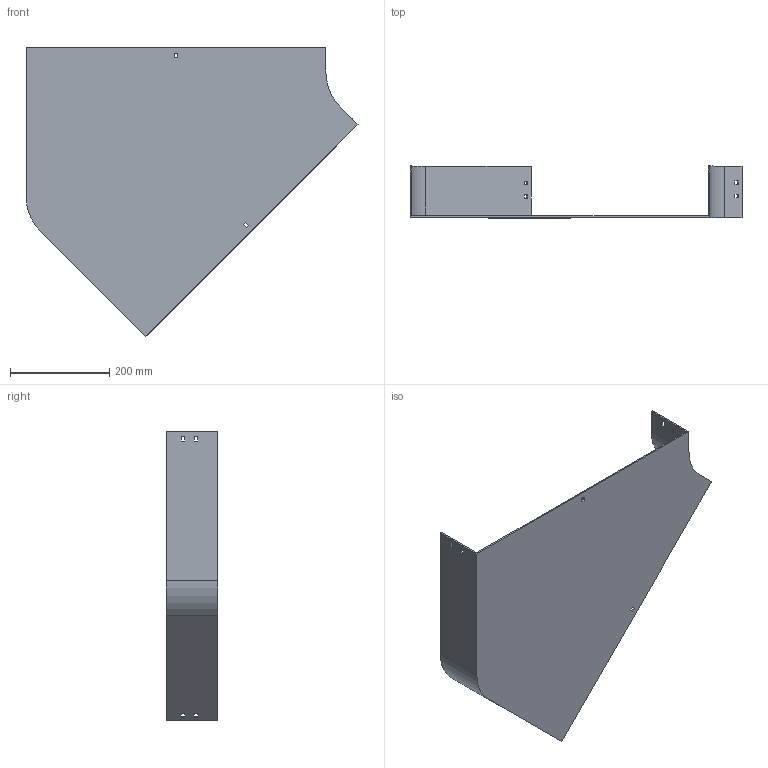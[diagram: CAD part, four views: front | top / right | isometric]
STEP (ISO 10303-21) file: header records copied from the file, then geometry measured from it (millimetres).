
FILE_DESCRIPTION (( 'STEP AP214' ), '1' );
FILE_NAME ('11B1D600.step', '2025-02-21T09:36:54', ( '' ), ( '' ), 'SwSTEP 2.0', 'SolidWorks 2023', '' );
FILE_SCHEMA (( 'AUTOMOTIVE_DESIGN' ));
Length unit declared in the file: millimetre
Products named in the file (1): 11B1D600
Bounding box: 668.64 x 104 x 583.16 mm (x, y, z)
Volume: 1214659 mm3; surface area: 703895.9 mm2
Topology: 1 solids, 1 shells, 58 faces, 168 edges, 112 vertices
Faces by surface type: plane 54, cylinder 4
Entity records: 1943 total; most frequent: CARTESIAN_POINT 339, ORIENTED_EDGE 336, DIRECTION 294, EDGE_CURVE 168, LINE 160, VECTOR 160, VERTEX_POINT 112, EDGE_LOOP 78
